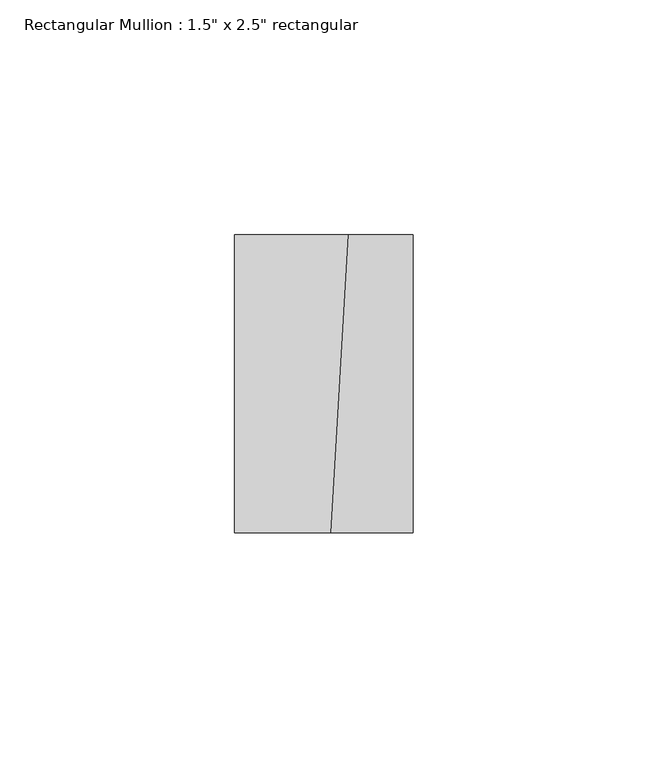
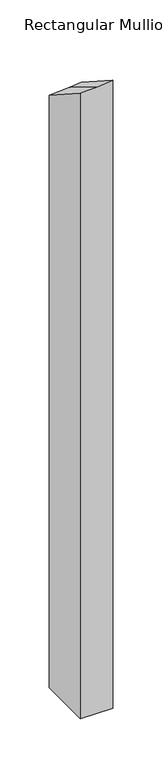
"""IFC4 building model written with IfcOpenShell, lengths in millimetres: member geometry."""

from ifc_helpers import new_model, si_unit, origin, place, context, project, spatial, faceted_brep, source, transform, mapped, element, save


def member_e501af4c(model_context):
    return source(origin(), model_context, "Body", "Brep", [
        faceted_brep([(19.05, 31.75, -796.7955478), (19.05, -31.75, -796.7955478), (-19.05, -31.75, -796.7955478), (-19.05, 31.75, -796.7955478), (-19.05, 31.75, -59.3629776), (5.2064677, 31.75, -57.9103094), (19.05, 31.75, -56.2479067), (-19.05, -31.75, -18.5170448), (19.05, -31.75, -15.1820964), (1.5538516, -31.75, -17.283124)], [[[0, 1, 2, 3]], [[4, 5, 6, 0, 3]], [[7, 4, 3, 2]], [[8, 9, 7, 2, 1]], [[6, 8, 1, 0]], [[6, 5, 9, 8]], [[5, 4, 7, 9]]]),
    ])


if __name__ == "__main__":
    model = new_model("IFC4")
    model_context = context("Model", 3, world=origin())
    ifc_project = project(units=[si_unit("LENGTHUNIT", "METRE", prefix="MILLI")], contexts=[model_context])
    site = spatial("IfcSite", under=ifc_project)
    building = spatial("IfcBuilding", under=site)
    placement = place(None, origin())
    member_shape = member_e501af4c(model_context)
    element("IfcMember", 1, ObjectType="Rectangular Mullion : 1.5\" x 2.5\" rectangular", at=placement, inside=building, context=model_context, shape_type="MappedRepresentation", body=[
        mapped(member_shape, transform((0.0, 0.0, 0.0), x_axis=(1.0, 0.0, 0.0), y_axis=(0.0, 1.0, 0.0), z_axis=(0.0, 0.0, 1.0))),
    ])
    save(model, "model.ifc")
